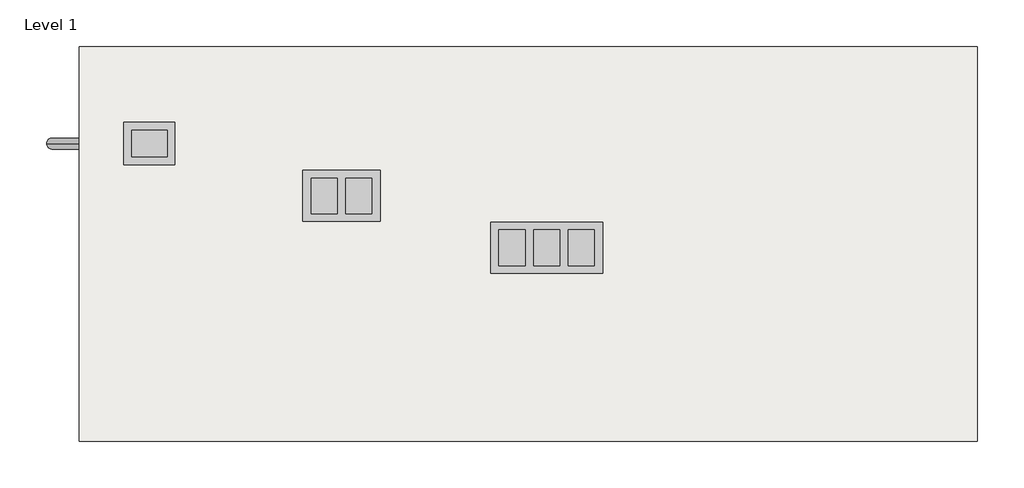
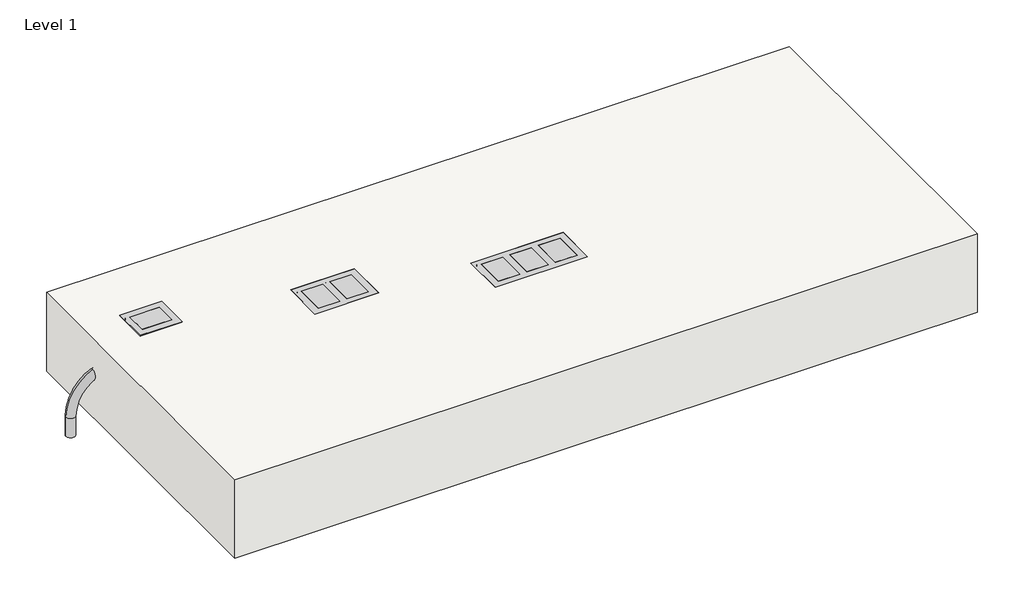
# One storey: 3 proxies, 1 slab.
"""IFC4 building model written with IfcOpenShell, lengths in millimetres."""

from ifc_helpers import new_model, si_unit, origin, place, context, project, spatial, faceted_brep, transform, mapped, element, save
from components import standard_ebe740a5, standard_ab6b8557, standard_33e52a59, standard_40654299

model = new_model("IFC4")

# Units and contexts
model_context = context("Model", 3, world=origin())
ifc_project = project(units=[si_unit("LENGTHUNIT", "METRE", prefix="MILLI")], contexts=[model_context])

# Site, building, storey
site = spatial("IfcSite", under=ifc_project)
building = spatial("IfcBuilding", under=site)
storey = spatial("IfcBuildingStorey", under=building, Name="Level 1", Elevation=0.0)

# Proxies
placement = place(None, origin())
standard_shape = standard_ebe740a5(model_context)
element("IfcBuildingElementProxy", 1, Name="Floor_Box-Modulink-Wiremold-880_Nonmetallic-3_Gang : Standard", ObjectType="Floor_Box-Modulink-Wiremold-880_Nonmetallic-3_Gang : Standard", at=placement, inside=storey, context=model_context, shape_type="MappedRepresentation", body=[
    mapped(standard_shape, transform((3247.8475991, 770.2928318, 0.0), x_axis=(0.0, 1.0000000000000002, 0.0), y_axis=(-1.0000000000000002, 0.0, 0.0), z_axis=(0.0, 0.0, 1.0))),
])
standard_2_shape = standard_ab6b8557(model_context)
standard_3_shape = standard_33e52a59(model_context)
element("IfcBuildingElementProxy", 2, Name="Floor_Box-Modulink-Wiremold-880_Nonmetallic-1_Gang-Fire_Classified : Standard", ObjectType="Floor_Box-Modulink-Wiremold-880_Nonmetallic-1_Gang-Fire_Classified : Standard", at=placement, inside=storey, context=model_context, shape_type="MappedRepresentation", body=[
    mapped(standard_2_shape, transform((2045.8159038, 1085.5054029, 0.0), x_axis=(1.0, 0.0, 0.0), y_axis=(0.0, 1.0, 0.0), z_axis=(0.0, 0.0, 1.0))),
    mapped(standard_3_shape, transform((2045.8159038, 1085.5054029, 0.0), x_axis=(1.0, 0.0, 0.0), y_axis=(0.0, 1.0, 0.0), z_axis=(0.0, 0.0, 1.0))),
])
standard_4_shape = standard_40654299(model_context)
element("IfcBuildingElementProxy", 3, Name="Floor_Box-Modulink-Wiremold-880_Nonmetallic-2_Gang : Standard", ObjectType="Floor_Box-Modulink-Wiremold-880_Nonmetallic-2_Gang : Standard", at=placement, inside=storey, context=model_context, shape_type="MappedRepresentation", body=[
    mapped(standard_4_shape, transform((2626.9259848, 927.232516, 0.0), x_axis=(0.0, 1.0000000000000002, 0.0), y_axis=(-1.0000000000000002, 0.0, 0.0), z_axis=(0.0, 0.0, 1.0))),
])

# Slab
element("IfcSlab", 4, ObjectType="Generic - 12\"", at=placement, inside=storey, context=model_context, shape_type="Brep", body=[
    faceted_brep([(4550.9973575, 1378.9766815, -304.8), (4550.9973575, 185.1766815, -304.8), (1833.1973575, 185.1766815, -304.8), (1833.1973575, 1378.9766815, -304.8), (4550.9973575, 185.1766815, 0.0), (4550.9973575, 1378.9766815, 0.0), (1833.1973575, 1378.9766815, 0.0), (1833.1973575, 185.1766815, 0.0), (1991.8409038, 1045.8179029, 0.0), (1991.8409038, 1125.1929029, 0.0), (2099.7909038, 1125.1929029, 0.0), (2099.7909038, 1045.8179029, 0.0), (2743.6135848, 850.232416, 0.0), (2510.2383848, 850.232416, 0.0), (2510.2383848, 1004.232616, 0.0), (2743.6135848, 1004.232616, 0.0), (3416.9226991, 847.2929318, 0.0), (3416.9226991, 693.2927318, 0.0), (3078.7724991, 693.2927318, 0.0), (3078.7724991, 847.2929318, 0.0), (1991.8409038, 1125.1929029, -9.525), (1991.8409038, 1045.8179029, -9.525), (2099.7909038, 1045.8179029, -9.525), (2099.7909038, 1125.1929029, -9.525), (2534.8382848, 873.257516, -12.7), (2614.2132848, 873.257516, -12.7), (2614.2132848, 981.207516, -12.7), (2534.8382848, 981.207516, -12.7), (2534.8382848, 873.257516, -3.175), (2614.2132848, 873.257516, -3.175), (2614.2132848, 981.207516, -3.175), (2534.8382848, 981.207516, -3.175), (2510.2383848, 850.232416, -3.175), (2743.6135848, 850.232416, -3.175), (2743.6135848, 1004.232616, -3.175), (2510.2383848, 1004.232616, -3.175), (3416.9226991, 847.2929318, -3.175), (3416.9226991, 693.2927318, -3.175), (3078.7724991, 847.2929318, -3.175), (3078.7724991, 693.2927318, -3.175)], [[[0, 1, 2, 3]], [[4, 5, 6, 7], [8, 9, 10, 11], [12, 13, 14, 15], [16, 17, 18, 19]], [[1, 0, 5, 4]], [[2, 1, 4, 7]], [[3, 2, 7, 6]], [[0, 3, 6, 5]], [[20, 21, 22, 23]], [[21, 20, 9, 8]], [[22, 21, 8, 11]], [[23, 22, 11, 10]], [[20, 23, 10, 9]], [[24, 25, 26, 27]], [[25, 24, 28, 29]], [[26, 25, 29, 30]], [[27, 26, 30, 31]], [[24, 27, 31, 28]], [[32, 33, 34, 35], [29, 28, 31, 30]], [[33, 32, 13, 12]], [[34, 33, 12, 15]], [[35, 34, 15, 14]], [[32, 35, 14, 13]], [[36, 37, 17, 16]], [[36, 16, 19, 38]], [[39, 37, 36, 38]], [[37, 39, 18, 17]], [[39, 38, 19, 18]]]),
])

save(model, "model.ifc")
